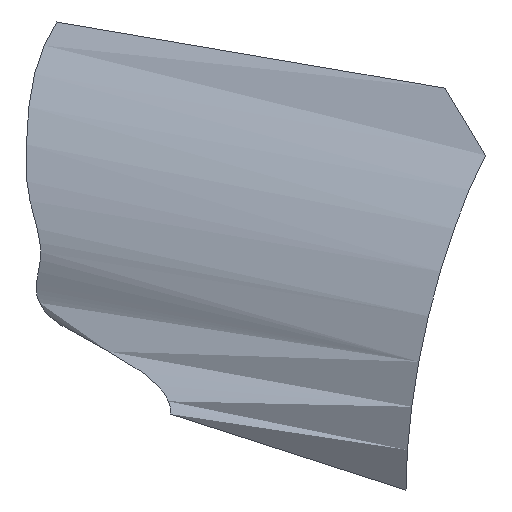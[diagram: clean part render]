
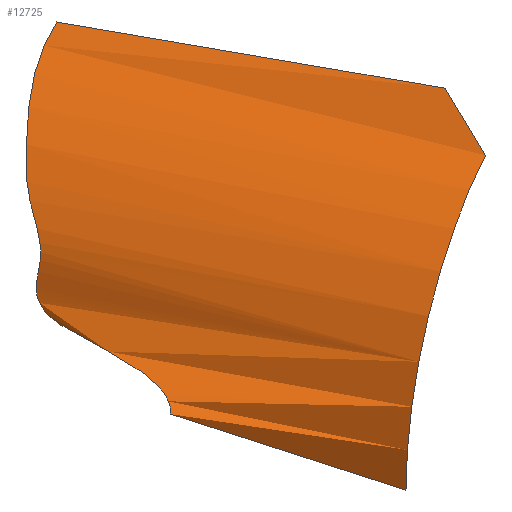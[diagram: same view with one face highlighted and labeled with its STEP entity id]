
A CAD part, isometric view. The second image highlights one B-rep face of the part: STEP entity #12725.
In plain terms, the highlighted cylindrical face has radius 0.2 mm (diameter 0.4 mm), a partial arc.
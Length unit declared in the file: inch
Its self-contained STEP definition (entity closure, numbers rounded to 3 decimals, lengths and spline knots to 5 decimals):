
#210=DIRECTION('',(-0.386,0.92,-0.074));
#211=VECTOR('',#210,0.01223);
#212=CARTESIAN_POINT('',(-0.26872,-0.09897,0.05878));
#213=LINE('',#212,#211);
#240=CARTESIAN_POINT('',(-0.27344,-0.08772,0.05787));
#241=CARTESIAN_POINT('',(-0.2739,-0.08792,0.05787));
#242=CARTESIAN_POINT('',(-0.27478,-0.08837,0.05778));
#243=CARTESIAN_POINT('',(-0.27602,-0.08917,0.05735));
#244=CARTESIAN_POINT('',(-0.27711,-0.09015,0.05664));
#245=CARTESIAN_POINT('',(-0.27807,-0.09105,0.05559));
#246=CARTESIAN_POINT('',(-0.27861,-0.09267,0.05444));
#247=CARTESIAN_POINT('',(-0.27944,-0.09191,0.05236));
#248=CARTESIAN_POINT('',(-0.27826,-0.09733,0.05254));
#249=CARTESIAN_POINT('',(-0.27912,-0.09808,0.05194));
#250=B_SPLINE_CURVE_WITH_KNOTS('',3,(#240,#241,#242,#243,#244,#245,#246,#247,#248,#249),.UNSPECIFIED.,.F.,.F.,(4,1,1,1,1,1,1,4),(0.,0.14286,0.28571,0.42857,0.57143,0.71429,0.85714,1.),.UNSPECIFIED.);
#4148=DIRECTION('',(-0.567,0.778,0.27));
#4149=VECTOR('',#4148,0.00719);
#4150=CARTESIAN_POINT('',(-0.27504,-0.10368,0.05));
#4151=LINE('',#4150,#4149);
#4156=CARTESIAN_POINT('',(-0.26783,-0.10053,0.05));
#4157=DIRECTION('',(-0.401,0.916,0.));
#4158=DIRECTION('',(-0.916,-0.401,0.));
#4159=AXIS2_PLACEMENT_3D('',#4156,#4157,#4158);
#4160=CIRCLE('',#4159,0.00787);
#6770=CARTESIAN_POINT('',(-0.26872,-0.09897,0.05878));
#6772=VERTEX_POINT('',#6770);
#6806=CARTESIAN_POINT('',(-0.27344,-0.08772,0.05787));
#6807=VERTEX_POINT('',#6806);
#6822=CARTESIAN_POINT('',(-0.27504,-0.10368,0.05));
#6823=CARTESIAN_POINT('',(-0.27912,-0.09808,0.05194));
#6824=VERTEX_POINT('',#6822);
#6825=VERTEX_POINT('',#6823);
#8089=EDGE_CURVE('',#6772,#6807,#213,.T.);
#8134=EDGE_CURVE('',#6824,#6825,#4151,.T.);
#8151=EDGE_CURVE('',#6807,#6825,#250,.T.);
#12713=CARTESIAN_POINT('',(-0.29726,-0.03332,0.05));
#12714=DIRECTION('',(0.401,-0.916,0.));
#12715=DIRECTION('',(0.,0.,1.));
#12716=AXIS2_PLACEMENT_3D('',#12713,#12714,#12715);
#12717=CYLINDRICAL_SURFACE('',#12716,0.00787);
#12718=ORIENTED_EDGE('',*,*,#8089,.F.);
#12719=EDGE_CURVE('',#6824,#6772,#4160,.T.);
#12720=ORIENTED_EDGE('',*,*,#12719,.F.);
#12721=ORIENTED_EDGE('',*,*,#8134,.T.);
#12722=ORIENTED_EDGE('',*,*,#8151,.F.);
#12723=EDGE_LOOP('',(#12718,#12720,#12721,#12722));
#12724=FACE_OUTER_BOUND('',#12723,.F.);
#12725=ADVANCED_FACE('',(#12724),#12717,.T.);
